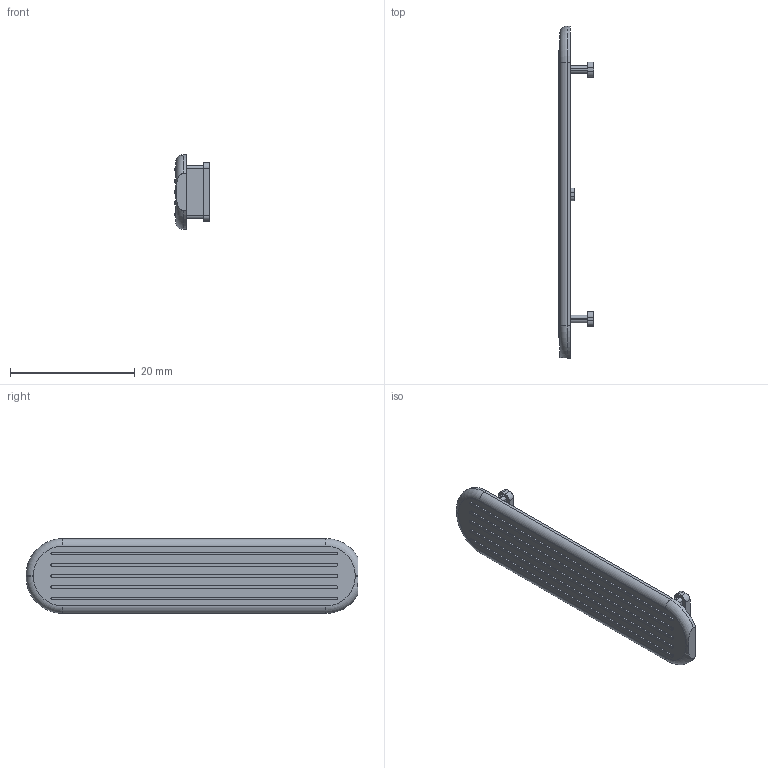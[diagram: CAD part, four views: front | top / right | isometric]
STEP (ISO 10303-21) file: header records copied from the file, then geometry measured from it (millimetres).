
FILE_DESCRIPTION(('Open CASCADE Model'),'2;1');
FILE_NAME('Open CASCADE Shape Model','2026-09-08T12:38:12',('Author'),( 'Open CASCADE'),'Open CASCADE STEP processor 7.7','Open CASCADE 7.7' ,'Unknown');
FILE_SCHEMA(('AUTOMOTIVE_DESIGN { 1 0 10303 214 1 1 1 1 }'));
Length unit declared in the file: millimetre
Products named in the file (1): Open CASCADE STEP translator 7.7 3
Bounding box: 5.77 x 53.25 x 12 mm (x, y, z)
Volume: 1139.8 mm3; surface area: 1701.3 mm2
Topology: 1 solids, 1 shells, 108 faces, 282 edges, 186 vertices
Faces by surface type: plane 56, cylinder 48, torus 4
Entity records: 7264 total; most frequent: CARTESIAN_POINT 1503, DIRECTION 1122, LINE 644, VECTOR 644, ORIENTED_EDGE 564, PCURVE 564, DEFINITIONAL_REPRESENTATION 564, EDGE_CURVE 282
